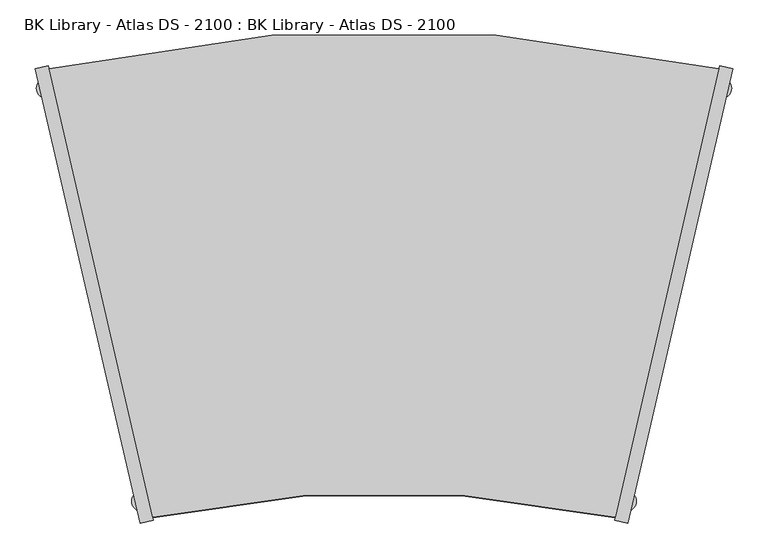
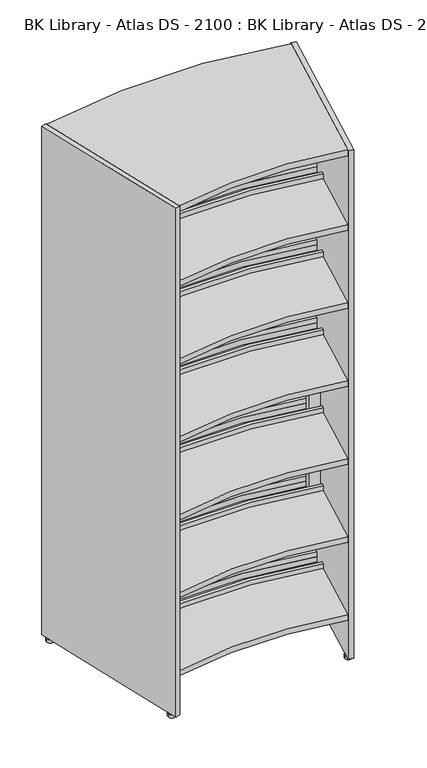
"""IFC4 building model written with IfcOpenShell, lengths in millimetres: furniture geometry, BK Library - Atlas DS - 2100 : BK Library - Atlas DS - 2100."""

from ifc_helpers import new_model, si_unit, point, frame, frame_2d, origin, origin_with_axes, place, context, project, spatial, polyline, circle_curve, trimmed, segment, composite_curve, outline, extrude, source, transform, mapped, element, save
from ifc_brep_helpers import plane_surface, cylinder_surface, revolved_surface, advanced_brep


def bk_library_atlas_ds_2100_bk_library_atlas_ds_2100_990d0805(model_context):
    return source(origin(), model_context, "Body", "SolidModel", [
        extrude(outline(composite_curve([segment(trimmed(circle_curve(frame_2d((0.0, -1840.4430404)), 1557.6392973), [point((327.6944521, -317.663829))], [point((-327.6944521, -317.663829))], True, "CARTESIAN"), True, "CONTINUOUS"), segment(polyline([(-327.6944521, -317.663829), (-394.2058088, -29.2269986)]), True, "CONTINUOUS"), segment(trimmed(circle_curve(frame_2d((0.0, -1785.1487517)), 1799.627579), [point((-394.2058088, -29.2269986))], [point((394.2058088, -29.2269986))], False, "CARTESIAN"), True, "CONTINUOUS"), segment(polyline([(394.2058088, -29.2269986), (327.6944521, -317.663829)]), True, "CONTINUOUS")], self_intersect=False)), frame((0.0, 0.0, 1771.6999998), z_axis=(0.0, 0.0, 1.0), x_axis=(1.0, 0.0, 0.0)), (0.0, 0.0, 1.0), 22.0),
        extrude(outline(composite_curve([segment(trimmed(circle_curve(frame_2d((0.0, -1777.8812307)), 2148.52767), [point((-474.1962162, 317.663829))], [point((474.1962162, 317.663829))], False, "CARTESIAN"), True, "CONTINUOUS"), segment(polyline([(474.1962162, 317.663829), (407.6853202, 29.2289965)]), True, "CONTINUOUS"), segment(trimmed(circle_curve(frame_2d((0.0, -1798.2835703)), 1872.4341116), [point((407.6853202, 29.2289965))], [point((-407.6853202, 29.2289965))], True, "CARTESIAN"), True, "CONTINUOUS"), segment(polyline([(-407.6853202, 29.2289965), (-474.1962162, 317.663829)]), True, "CONTINUOUS")], self_intersect=False)), frame((0.0, 0.0, 1771.6999998), z_axis=(0.0, 0.0, 1.0), x_axis=(1.0, 0.0, 0.0)), (0.0, 0.0, 1.0), 22.0),
        extrude(outline(composite_curve([segment(trimmed(circle_curve(frame_2d((0.0, -1785.1487517)), 1799.627579), [point((-394.2058088, -29.2269986))], [point((394.2058088, -29.2269986))], False, "CARTESIAN"), True, "CONTINUOUS"), segment(polyline([(394.2058088, -29.2269986), (391.2848087, -41.8943694)]), True, "CONTINUOUS"), segment(trimmed(circle_curve(frame_2d((0.0, -1790.5831955)), 1791.9309172), [point((391.2848087, -41.8943694))], [point((-391.2848087, -41.8943694))], True, "CARTESIAN"), True, "CONTINUOUS"), segment(polyline([(-391.2848087, -41.8943694), (-394.2058088, -29.2269986)]), True, "CONTINUOUS")], self_intersect=False)), frame((0.0, 0.0, 1793.6999998), z_axis=(0.0, 0.0, 1.0), x_axis=(1.0, 0.0, 0.0)), (0.0, 0.0, 1.0), 20.0),
        extrude(outline(composite_curve([segment(trimmed(circle_curve(frame_2d((0.0, -1776.6858327)), 1864.3585062), [point((-410.605951, 41.8947656))], [point((410.605951, 41.8947656))], False, "CARTESIAN"), True, "CONTINUOUS"), segment(polyline([(410.605951, 41.8947656), (407.6853202, 29.2289965)]), True, "CONTINUOUS"), segment(trimmed(circle_curve(frame_2d((0.0, -1798.2835703)), 1872.4341116), [point((407.6853202, 29.2289965))], [point((-407.6853202, 29.2289965))], True, "CARTESIAN"), True, "CONTINUOUS"), segment(polyline([(-407.6853202, 29.2289965), (-410.605951, 41.8947656)]), True, "CONTINUOUS")], self_intersect=False)), frame((0.0, 0.0, 1793.6999998), z_axis=(0.0, 0.0, 1.0), x_axis=(1.0, 0.0, 0.0)), (0.0, 0.0, 1.0), 20.0),
        extrude(outline(composite_curve([segment(trimmed(circle_curve(frame_2d((0.0, -1777.8812307)), 2148.52767), [point((-474.1962162, 317.663829))], [point((474.1962162, 317.663829))], False, "CARTESIAN"), True, "CONTINUOUS"), segment(polyline([(474.1962162, 317.663829), (327.6944521, -317.663829)]), True, "CONTINUOUS"), segment(trimmed(circle_curve(frame_2d((0.0, -1840.4430404)), 1557.6392973), [point((327.6944521, -317.663829))], [point((-327.6944521, -317.663829))], True, "CARTESIAN"), True, "CONTINUOUS"), segment(polyline([(-327.6944521, -317.663829), (-474.1962162, 317.663829)]), True, "CONTINUOUS")], self_intersect=False)), frame((0.0, 0.0, 2077.6999998), z_axis=(0.0, 0.0, 1.0), x_axis=(1.0, 0.0, 0.0)), (0.0, 0.0, 1.0), 24.0),
        advanced_brep(
        [(-403.1922937, 9.7442892, 1106.1999998), (-398.6983746, -9.7442892, 1106.1999998), (398.6983746, -9.7442892, 1106.1999998), (403.1922937, 9.7442892, 1106.1999998), (-403.1922937, 9.7442892, 391.1999998), (403.1922937, 9.7442892, 391.1999998), (398.6983746, -9.7442892, 391.1999998), (-398.6983746, -9.7442892, 391.1999998), (359.7000463, -1.6061954, 1066.1999998), (359.7000463, -1.6061954, 768.6999998), (-359.7212176, -1.6103769, 768.6999998), (-359.7212176, -1.6103769, 1066.1999998), (-359.7212176, -1.6103769, 728.6999998), (359.7000463, -1.6061954, 728.6999998), (359.7000463, -1.6061954, 431.1999998), (-359.7212176, -1.6103769, 431.1999998), (359.7000463, 18.8192746, 768.6999998), (359.7000463, 18.8192746, 1066.1999998), (-359.7212176, 18.8151191, 1066.1999998), (-359.7212176, 18.8151191, 768.6999998), (359.7000463, 18.8192746, 728.6999998), (-359.7212176, 18.8151191, 728.6999998), (-359.7212176, 18.8151191, 431.1999998), (359.7000463, 18.8192746, 431.1999998)],
        [
            (0, 1),
            (1, 2, circle_curve(frame((0.0, -1822.824997, 1106.1999998), z_axis=(0.0, 0.0, -1.0), x_axis=(1.0, 0.0, 0.0)), 1856.4002927)),
            (2, 3),
            (3, 0, circle_curve(frame((0.0, -1813.8149651, 1106.1999998), z_axis=(0.0, 0.0, 1.0), x_axis=(1.0, 0.0, 0.0)), 1867.6007014)),
            (4, 5, circle_curve(frame((0.0, -1813.8149651, 391.1999998), z_axis=(0.0, 0.0, -1.0), x_axis=(1.0, 0.0, 0.0)), 1867.6007014)),
            (5, 6),
            (6, 7, circle_curve(frame((0.0, -1822.824997, 391.1999998), z_axis=(0.0, 0.0, 1.0), x_axis=(1.0, 0.0, 0.0)), 1856.4002927)),
            (7, 4),
            (0, 4),
            (7, 1),
            (2, 6),
            (5, 3),
            (8, 9),
            (9, 10, circle_curve(frame((0.0, -1822.824997, 768.6999998), z_axis=(0.0, 0.0, 1.0), x_axis=(1.0, 0.0, 0.0)), 1856.4002927)),
            (10, 11),
            (11, 8, circle_curve(frame((0.0, -1822.824997, 1066.1999998), z_axis=(0.0, 0.0, -1.0), x_axis=(1.0, 0.0, 0.0)), 1856.4002927)),
            (12, 13, circle_curve(frame((0.0, -1822.824997, 728.6999998), z_axis=(0.0, 0.0, -1.0), x_axis=(1.0, 0.0, 0.0)), 1856.4002927)),
            (13, 14),
            (14, 15, circle_curve(frame((0.0, -1822.824997, 431.1999998), z_axis=(0.0, 0.0, 1.0), x_axis=(1.0, 0.0, 0.0)), 1856.4002927)),
            (15, 12),
            (16, 17),
            (17, 18, circle_curve(frame((0.0, -1813.8149651, 1066.1999998), z_axis=(0.0, 0.0, 1.0), x_axis=(1.0, 0.0, 0.0)), 1867.6007014)),
            (18, 19),
            (19, 16, circle_curve(frame((0.0, -1813.8149651, 768.6999998), z_axis=(0.0, 0.0, -1.0), x_axis=(1.0, 0.0, 0.0)), 1867.6007014)),
            (20, 21, circle_curve(frame((0.0, -1813.8149651, 728.6999998), z_axis=(0.0, 0.0, 1.0), x_axis=(1.0, 0.0, 0.0)), 1867.6007014)),
            (21, 22),
            (22, 23, circle_curve(frame((0.0, -1813.8149651, 431.1999998), z_axis=(0.0, 0.0, -1.0), x_axis=(1.0, 0.0, 0.0)), 1867.6007014)),
            (23, 20),
            (16, 9),
            (8, 17),
            (11, 18),
            (10, 19),
            (20, 13),
            (12, 21),
            (15, 22),
            (14, 23),
        ],
        [
            plane_surface(frame((-326.7956683, -321.5615447, 1106.1999998), z_axis=(0.0, 0.0, 1.0), x_axis=(0.224695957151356, -0.9744289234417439, 0.0))),
            plane_surface(frame((-326.7956683, -321.5615447, 391.1999998), z_axis=(0.0, 0.0, -1.0), x_axis=(-0.224695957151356, 0.9744289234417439, 0.0))),
            plane_surface(frame((-403.1922937, 9.7442892, 1106.1999998), z_axis=(-0.9744289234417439, -0.224695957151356, 0.0), x_axis=(0.0, 0.0, -1.0))),
            plane_surface(frame((398.6983746, -9.7442892, 1106.1999998), z_axis=(0.974428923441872, -0.22469595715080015, 0.0), x_axis=(0.0, 0.0, -1.0))),
            revolved_surface(polyline([(1856.4002927, -1822.824997, 391.1999998), (1856.4002927, -1822.824997, 1106.1999998)]), (0.0, -1822.824997, 391.1999998), (0.0, 0.0, -1.0)),
            cylinder_surface(frame((0.0, -1813.8149651, 391.1999998), z_axis=(0.0, 0.0, 1.0), x_axis=(1.0, 0.0, 0.0)), 1867.6007014),
            plane_surface(frame((359.7000463, -114.4923923, 768.6999998), z_axis=(-1.0, 0.0, 0.0), x_axis=(0.0, 1.0, 0.0))),
            plane_surface(frame((359.7000463, -114.4923923, 1066.1999998), z_axis=(0.0, 0.0, -1.0), x_axis=(0.0, 1.0, 0.0))),
            plane_surface(frame((-359.7212176, -114.4923923, 1066.1999998), z_axis=(1.0, 0.0, 0.0), x_axis=(0.0, 1.0, 0.0))),
            plane_surface(frame((-359.7212176, -114.4923923, 768.6999998), z_axis=(0.0, 0.0, 1.0), x_axis=(0.0, 1.0, 0.0))),
            plane_surface(frame((359.7000463, -114.4923923, 728.6999998), z_axis=(0.0, 0.0, -1.0), x_axis=(0.0, 1.0, 0.0))),
            plane_surface(frame((-359.7212176, -114.4923923, 728.6999998), z_axis=(1.0, 0.0, 0.0), x_axis=(0.0, 1.0, 0.0))),
            plane_surface(frame((-359.7212176, -114.4923923, 431.1999998), z_axis=(0.0, 0.0, 1.0), x_axis=(0.0, 1.0, 0.0))),
            plane_surface(frame((359.7000463, -114.4923923, 431.1999998), z_axis=(-1.0, 0.0, 0.0), x_axis=(0.0, 1.0, 0.0))),
        ],
        [
            (0, [[1, 2, 3, 4]]),
            (1, [[5, 6, 7, 8]]),
            (2, [[-1, 9, -8, 10]]),
            (3, [[-3, 11, -6, 12]]),
            (4, [[-2, -10, -7, -11], [13, 14, 15, 16], [17, 18, 19, 20]]),
            (5, [[-4, -12, -5, -9], [21, 22, 23, 24], [25, 26, 27, 28]]),
            (6, [[29, -13, 30, -21]]),
            (7, [[-30, -16, 31, -22]]),
            (8, [[-31, -15, 32, -23]]),
            (9, [[-29, -24, -32, -14]]),
            (10, [[33, -17, 34, -25]]),
            (11, [[-34, -20, 35, -26]]),
            (12, [[-35, -19, 36, -27]]),
            (13, [[-33, -28, -36, -18]]),
        ],
    ),
        extrude(outline(composite_curve([segment(trimmed(circle_curve(frame_2d((0.0, -1840.4430404)), 1557.6392973), [point((327.6944521, -317.663829))], [point((-327.6944521, -317.663829))], True, "CARTESIAN"), True, "CONTINUOUS"), segment(polyline([(-327.6944521, -317.663829), (-394.2058088, -29.2269986)]), True, "CONTINUOUS"), segment(trimmed(circle_curve(frame_2d((0.0, -1785.1487517)), 1799.627579), [point((-394.2058088, -29.2269986))], [point((394.2058088, -29.2269986))], False, "CARTESIAN"), True, "CONTINUOUS"), segment(polyline([(394.2058088, -29.2269986), (327.6944521, -317.663829)]), True, "CONTINUOUS")], self_intersect=False)), frame((0.0, 0.0, 171.6999998), z_axis=(0.0, 0.0, 1.0), x_axis=(1.0, 0.0, 0.0)), (0.0, 0.0, 1.0), 22.0),
        extrude(outline(composite_curve([segment(trimmed(circle_curve(frame_2d((0.0, -1777.8812307)), 2148.52767), [point((-474.1962162, 317.663829))], [point((474.1962162, 317.663829))], False, "CARTESIAN"), True, "CONTINUOUS"), segment(polyline([(474.1962162, 317.663829), (407.6853202, 29.2289965)]), True, "CONTINUOUS"), segment(trimmed(circle_curve(frame_2d((0.0, -1798.2835703)), 1872.4341116), [point((407.6853202, 29.2289965))], [point((-407.6853202, 29.2289965))], True, "CARTESIAN"), True, "CONTINUOUS"), segment(polyline([(-407.6853202, 29.2289965), (-474.1962162, 317.663829)]), True, "CONTINUOUS")], self_intersect=False)), frame((0.0, 0.0, 171.6999998), z_axis=(0.0, 0.0, 1.0), x_axis=(1.0, 0.0, 0.0)), (0.0, 0.0, 1.0), 22.0),
        extrude(outline(composite_curve([segment(trimmed(circle_curve(frame_2d((0.0, -1840.4430404)), 1557.6392973), [point((327.6944521, -317.663829))], [point((-327.6944521, -317.663829))], True, "CARTESIAN"), True, "CONTINUOUS"), segment(polyline([(-327.6944521, -317.663829), (-394.2058088, -29.2269986)]), True, "CONTINUOUS"), segment(trimmed(circle_curve(frame_2d((0.0, -1785.1487517)), 1799.627579), [point((-394.2058088, -29.2269986))], [point((394.2058088, -29.2269986))], False, "CARTESIAN"), True, "CONTINUOUS"), segment(polyline([(394.2058088, -29.2269986), (327.6944521, -317.663829)]), True, "CONTINUOUS")], self_intersect=False)), frame((0.0, 0.0, 491.6999998), z_axis=(0.0, 0.0, 1.0), x_axis=(1.0, 0.0, 0.0)), (0.0, 0.0, 1.0), 22.0),
        extrude(outline(composite_curve([segment(trimmed(circle_curve(frame_2d((0.0, -1777.8812307)), 2148.52767), [point((-474.1962162, 317.663829))], [point((474.1962162, 317.663829))], False, "CARTESIAN"), True, "CONTINUOUS"), segment(polyline([(474.1962162, 317.663829), (407.6853202, 29.2289965)]), True, "CONTINUOUS"), segment(trimmed(circle_curve(frame_2d((0.0, -1798.2835703)), 1872.4341116), [point((407.6853202, 29.2289965))], [point((-407.6853202, 29.2289965))], True, "CARTESIAN"), True, "CONTINUOUS"), segment(polyline([(-407.6853202, 29.2289965), (-474.1962162, 317.663829)]), True, "CONTINUOUS")], self_intersect=False)), frame((0.0, 0.0, 491.6999998), z_axis=(0.0, 0.0, 1.0), x_axis=(1.0, 0.0, 0.0)), (0.0, 0.0, 1.0), 22.0),
        extrude(outline(composite_curve([segment(trimmed(circle_curve(frame_2d((0.0, -1840.4430404)), 1557.6392973), [point((327.6944521, -317.663829))], [point((-327.6944521, -317.663829))], True, "CARTESIAN"), True, "CONTINUOUS"), segment(polyline([(-327.6944521, -317.663829), (-394.2058088, -29.2269986)]), True, "CONTINUOUS"), segment(trimmed(circle_curve(frame_2d((0.0, -1785.1487517)), 1799.627579), [point((-394.2058088, -29.2269986))], [point((394.2058088, -29.2269986))], False, "CARTESIAN"), True, "CONTINUOUS"), segment(polyline([(394.2058088, -29.2269986), (327.6944521, -317.663829)]), True, "CONTINUOUS")], self_intersect=False)), frame((0.0, 0.0, 811.6999998), z_axis=(0.0, 0.0, 1.0), x_axis=(1.0, 0.0, 0.0)), (0.0, 0.0, 1.0), 22.0),
        extrude(outline(composite_curve([segment(trimmed(circle_curve(frame_2d((0.0, -1777.8812307)), 2148.52767), [point((-474.1962162, 317.663829))], [point((474.1962162, 317.663829))], False, "CARTESIAN"), True, "CONTINUOUS"), segment(polyline([(474.1962162, 317.663829), (407.6853202, 29.2289965)]), True, "CONTINUOUS"), segment(trimmed(circle_curve(frame_2d((0.0, -1798.2835703)), 1872.4341116), [point((407.6853202, 29.2289965))], [point((-407.6853202, 29.2289965))], True, "CARTESIAN"), True, "CONTINUOUS"), segment(polyline([(-407.6853202, 29.2289965), (-474.1962162, 317.663829)]), True, "CONTINUOUS")], self_intersect=False)), frame((0.0, 0.0, 811.6999998), z_axis=(0.0, 0.0, 1.0), x_axis=(1.0, 0.0, 0.0)), (0.0, 0.0, 1.0), 22.0),
        extrude(outline(composite_curve([segment(trimmed(circle_curve(frame_2d((0.0, -1840.4430404)), 1557.6392973), [point((327.6944521, -317.663829))], [point((-327.6944521, -317.663829))], True, "CARTESIAN"), True, "CONTINUOUS"), segment(polyline([(-327.6944521, -317.663829), (-394.2058088, -29.2269986)]), True, "CONTINUOUS"), segment(trimmed(circle_curve(frame_2d((0.0, -1785.1487517)), 1799.627579), [point((-394.2058088, -29.2269986))], [point((394.2058088, -29.2269986))], False, "CARTESIAN"), True, "CONTINUOUS"), segment(polyline([(394.2058088, -29.2269986), (327.6944521, -317.663829)]), True, "CONTINUOUS")], self_intersect=False)), frame((0.0, 0.0, 1131.6999998), z_axis=(0.0, 0.0, 1.0), x_axis=(1.0, 0.0, 0.0)), (0.0, 0.0, 1.0), 22.0),
        extrude(outline(composite_curve([segment(trimmed(circle_curve(frame_2d((0.0, -1777.8812307)), 2148.52767), [point((-474.1962162, 317.663829))], [point((474.1962162, 317.663829))], False, "CARTESIAN"), True, "CONTINUOUS"), segment(polyline([(474.1962162, 317.663829), (407.6853202, 29.2289965)]), True, "CONTINUOUS"), segment(trimmed(circle_curve(frame_2d((0.0, -1798.2835703)), 1872.4341116), [point((407.6853202, 29.2289965))], [point((-407.6853202, 29.2289965))], True, "CARTESIAN"), True, "CONTINUOUS"), segment(polyline([(-407.6853202, 29.2289965), (-474.1962162, 317.663829)]), True, "CONTINUOUS")], self_intersect=False)), frame((0.0, 0.0, 1131.6999998), z_axis=(0.0, 0.0, 1.0), x_axis=(1.0, 0.0, 0.0)), (0.0, 0.0, 1.0), 22.0),
        extrude(outline(composite_curve([segment(trimmed(circle_curve(frame_2d((0.0, -1840.4430404)), 1557.6392973), [point((327.6944521, -317.663829))], [point((-327.6944521, -317.663829))], True, "CARTESIAN"), True, "CONTINUOUS"), segment(polyline([(-327.6944521, -317.663829), (-394.2058088, -29.2269986)]), True, "CONTINUOUS"), segment(trimmed(circle_curve(frame_2d((0.0, -1785.1487517)), 1799.627579), [point((-394.2058088, -29.2269986))], [point((394.2058088, -29.2269986))], False, "CARTESIAN"), True, "CONTINUOUS"), segment(polyline([(394.2058088, -29.2269986), (327.6944521, -317.663829)]), True, "CONTINUOUS")], self_intersect=False)), frame((0.0, 0.0, 1451.6999998), z_axis=(0.0, 0.0, 1.0), x_axis=(1.0, 0.0, 0.0)), (0.0, 0.0, 1.0), 22.0),
        extrude(outline(composite_curve([segment(trimmed(circle_curve(frame_2d((0.0, -1777.8812307)), 2148.52767), [point((-474.1962162, 317.663829))], [point((474.1962162, 317.663829))], False, "CARTESIAN"), True, "CONTINUOUS"), segment(polyline([(474.1962162, 317.663829), (407.6853202, 29.2289965)]), True, "CONTINUOUS"), segment(trimmed(circle_curve(frame_2d((0.0, -1798.2835703)), 1872.4341116), [point((407.6853202, 29.2289965))], [point((-407.6853202, 29.2289965))], True, "CARTESIAN"), True, "CONTINUOUS"), segment(polyline([(-407.6853202, 29.2289965), (-474.1962162, 317.663829)]), True, "CONTINUOUS")], self_intersect=False)), frame((0.0, 0.0, 1451.6999998), z_axis=(0.0, 0.0, 1.0), x_axis=(1.0, 0.0, 0.0)), (0.0, 0.0, 1.0), 22.0),
        extrude(outline(composite_curve([segment(trimmed(circle_curve(frame_2d((0.0, -1785.1487517)), 1799.627579), [point((-394.2058088, -29.2269986))], [point((394.2058088, -29.2269986))], False, "CARTESIAN"), True, "CONTINUOUS"), segment(polyline([(394.2058088, -29.2269986), (391.2848087, -41.8943694)]), True, "CONTINUOUS"), segment(trimmed(circle_curve(frame_2d((0.0, -1790.5831955)), 1791.9309172), [point((391.2848087, -41.8943694))], [point((-391.2848087, -41.8943694))], True, "CARTESIAN"), True, "CONTINUOUS"), segment(polyline([(-391.2848087, -41.8943694), (-394.2058088, -29.2269986)]), True, "CONTINUOUS")], self_intersect=False)), frame((0.0, 0.0, 193.6999998), z_axis=(0.0, 0.0, 1.0), x_axis=(1.0, 0.0, 0.0)), (0.0, 0.0, 1.0), 20.0),
        extrude(outline(composite_curve([segment(trimmed(circle_curve(frame_2d((0.0, -1776.6858327)), 1864.3585062), [point((-410.605951, 41.8947656))], [point((410.605951, 41.8947656))], False, "CARTESIAN"), True, "CONTINUOUS"), segment(polyline([(410.605951, 41.8947656), (407.6853202, 29.2289965)]), True, "CONTINUOUS"), segment(trimmed(circle_curve(frame_2d((0.0, -1798.2835703)), 1872.4341116), [point((407.6853202, 29.2289965))], [point((-407.6853202, 29.2289965))], True, "CARTESIAN"), True, "CONTINUOUS"), segment(polyline([(-407.6853202, 29.2289965), (-410.605951, 41.8947656)]), True, "CONTINUOUS")], self_intersect=False)), frame((0.0, 0.0, 193.6999998), z_axis=(0.0, 0.0, 1.0), x_axis=(1.0, 0.0, 0.0)), (0.0, 0.0, 1.0), 20.0),
        extrude(outline(composite_curve([segment(trimmed(circle_curve(frame_2d((0.0, -1785.1487517)), 1799.627579), [point((-394.2058088, -29.2269986))], [point((394.2058088, -29.2269986))], False, "CARTESIAN"), True, "CONTINUOUS"), segment(polyline([(394.2058088, -29.2269986), (391.2848087, -41.8943694)]), True, "CONTINUOUS"), segment(trimmed(circle_curve(frame_2d((0.0, -1790.5831955)), 1791.9309172), [point((391.2848087, -41.8943694))], [point((-391.2848087, -41.8943694))], True, "CARTESIAN"), True, "CONTINUOUS"), segment(polyline([(-391.2848087, -41.8943694), (-394.2058088, -29.2269986)]), True, "CONTINUOUS")], self_intersect=False)), frame((0.0, 0.0, 513.6999998), z_axis=(0.0, 0.0, 1.0), x_axis=(1.0, 0.0, 0.0)), (0.0, 0.0, 1.0), 20.0),
        extrude(outline(composite_curve([segment(trimmed(circle_curve(frame_2d((0.0, -1776.6858327)), 1864.3585062), [point((-410.605951, 41.8947656))], [point((410.605951, 41.8947656))], False, "CARTESIAN"), True, "CONTINUOUS"), segment(polyline([(410.605951, 41.8947656), (407.6853202, 29.2289965)]), True, "CONTINUOUS"), segment(trimmed(circle_curve(frame_2d((0.0, -1798.2835703)), 1872.4341116), [point((407.6853202, 29.2289965))], [point((-407.6853202, 29.2289965))], True, "CARTESIAN"), True, "CONTINUOUS"), segment(polyline([(-407.6853202, 29.2289965), (-410.605951, 41.8947656)]), True, "CONTINUOUS")], self_intersect=False)), frame((0.0, 0.0, 513.6999998), z_axis=(0.0, 0.0, 1.0), x_axis=(1.0, 0.0, 0.0)), (0.0, 0.0, 1.0), 20.0),
        extrude(outline(composite_curve([segment(trimmed(circle_curve(frame_2d((0.0, -1785.1487517)), 1799.627579), [point((-394.2058088, -29.2269986))], [point((394.2058088, -29.2269986))], False, "CARTESIAN"), True, "CONTINUOUS"), segment(polyline([(394.2058088, -29.2269986), (391.2848087, -41.8943694)]), True, "CONTINUOUS"), segment(trimmed(circle_curve(frame_2d((0.0, -1790.5831955)), 1791.9309172), [point((391.2848087, -41.8943694))], [point((-391.2848087, -41.8943694))], True, "CARTESIAN"), True, "CONTINUOUS"), segment(polyline([(-391.2848087, -41.8943694), (-394.2058088, -29.2269986)]), True, "CONTINUOUS")], self_intersect=False)), frame((0.0, 0.0, 833.6999998), z_axis=(0.0, 0.0, 1.0), x_axis=(1.0, 0.0, 0.0)), (0.0, 0.0, 1.0), 20.0),
        extrude(outline(composite_curve([segment(trimmed(circle_curve(frame_2d((0.0, -1776.6858327)), 1864.3585062), [point((-410.605951, 41.8947656))], [point((410.605951, 41.8947656))], False, "CARTESIAN"), True, "CONTINUOUS"), segment(polyline([(410.605951, 41.8947656), (407.6853202, 29.2289965)]), True, "CONTINUOUS"), segment(trimmed(circle_curve(frame_2d((0.0, -1798.2835703)), 1872.4341116), [point((407.6853202, 29.2289965))], [point((-407.6853202, 29.2289965))], True, "CARTESIAN"), True, "CONTINUOUS"), segment(polyline([(-407.6853202, 29.2289965), (-410.605951, 41.8947656)]), True, "CONTINUOUS")], self_intersect=False)), frame((0.0, 0.0, 833.6999998), z_axis=(0.0, 0.0, 1.0), x_axis=(1.0, 0.0, 0.0)), (0.0, 0.0, 1.0), 20.0),
        extrude(outline(composite_curve([segment(trimmed(circle_curve(frame_2d((0.0, -1785.1487517)), 1799.627579), [point((-394.2058088, -29.2269986))], [point((394.2058088, -29.2269986))], False, "CARTESIAN"), True, "CONTINUOUS"), segment(polyline([(394.2058088, -29.2269986), (391.2848087, -41.8943694)]), True, "CONTINUOUS"), segment(trimmed(circle_curve(frame_2d((0.0, -1790.5831955)), 1791.9309172), [point((391.2848087, -41.8943694))], [point((-391.2848087, -41.8943694))], True, "CARTESIAN"), True, "CONTINUOUS"), segment(polyline([(-391.2848087, -41.8943694), (-394.2058088, -29.2269986)]), True, "CONTINUOUS")], self_intersect=False)), frame((0.0, 0.0, 1153.6999998), z_axis=(0.0, 0.0, 1.0), x_axis=(1.0, 0.0, 0.0)), (0.0, 0.0, 1.0), 20.0),
        extrude(outline(composite_curve([segment(trimmed(circle_curve(frame_2d((0.0, -1776.6858327)), 1864.3585062), [point((-410.605951, 41.8947656))], [point((410.605951, 41.8947656))], False, "CARTESIAN"), True, "CONTINUOUS"), segment(polyline([(410.605951, 41.8947656), (407.6853202, 29.2289965)]), True, "CONTINUOUS"), segment(trimmed(circle_curve(frame_2d((0.0, -1798.2835703)), 1872.4341116), [point((407.6853202, 29.2289965))], [point((-407.6853202, 29.2289965))], True, "CARTESIAN"), True, "CONTINUOUS"), segment(polyline([(-407.6853202, 29.2289965), (-410.605951, 41.8947656)]), True, "CONTINUOUS")], self_intersect=False)), frame((0.0, 0.0, 1153.6999998), z_axis=(0.0, 0.0, 1.0), x_axis=(1.0, 0.0, 0.0)), (0.0, 0.0, 1.0), 20.0),
        extrude(outline(composite_curve([segment(trimmed(circle_curve(frame_2d((0.0, -1785.1487517)), 1799.627579), [point((-394.2058088, -29.2269986))], [point((394.2058088, -29.2269986))], False, "CARTESIAN"), True, "CONTINUOUS"), segment(polyline([(394.2058088, -29.2269986), (391.2848087, -41.8943694)]), True, "CONTINUOUS"), segment(trimmed(circle_curve(frame_2d((0.0, -1790.5831955)), 1791.9309172), [point((391.2848087, -41.8943694))], [point((-391.2848087, -41.8943694))], True, "CARTESIAN"), True, "CONTINUOUS"), segment(polyline([(-391.2848087, -41.8943694), (-394.2058088, -29.2269986)]), True, "CONTINUOUS")], self_intersect=False)), frame((0.0, 0.0, 1473.6999998), z_axis=(0.0, 0.0, 1.0), x_axis=(1.0, 0.0, 0.0)), (0.0, 0.0, 1.0), 20.0),
        extrude(outline(composite_curve([segment(trimmed(circle_curve(frame_2d((0.0, -1776.6858327)), 1864.3585062), [point((-410.605951, 41.8947656))], [point((410.605951, 41.8947656))], False, "CARTESIAN"), True, "CONTINUOUS"), segment(polyline([(410.605951, 41.8947656), (407.6853202, 29.2289965)]), True, "CONTINUOUS"), segment(trimmed(circle_curve(frame_2d((0.0, -1798.2835703)), 1872.4341116), [point((407.6853202, 29.2289965))], [point((-407.6853202, 29.2289965))], True, "CARTESIAN"), True, "CONTINUOUS"), segment(polyline([(-407.6853202, 29.2289965), (-410.605951, 41.8947656)]), True, "CONTINUOUS")], self_intersect=False)), frame((0.0, 0.0, 1473.6999998), z_axis=(0.0, 0.0, 1.0), x_axis=(1.0, 0.0, 0.0)), (0.0, 0.0, 1.0), 20.0),
        extrude(outline(polyline([(-345.3098178, -325.8307679), (-493.6091495, 317.2923215), (-475.095, 321.5615447), (-326.7956683, -321.5615447), (-345.3098178, -325.8307679)])), frame((0.0, 0.0, 13.6999998), z_axis=(0.0, 0.0, 1.0), x_axis=(1.0, 0.0, 0.0)), (0.0, 0.0, 1.0), 2088.0),
        extrude(outline(polyline([(475.095, 321.5615447), (493.6091495, 317.2923215), (345.3098178, -325.8307679), (326.7956683, -321.5615447), (475.095, 321.5615447)])), frame((0.0, 0.0, 13.6999998), z_axis=(0.0, 0.0, 1.0), x_axis=(1.0, 0.0, 0.0)), (0.0, 0.0, 1.0), 2088.0),
        extrude(outline(composite_curve([segment(trimmed(circle_curve(frame_2d((477.608406, 290.1883722)), 14.4994573), [point((492.1078633, 290.1883722))], [point((463.1089486, 290.1883722))], False, "CARTESIAN"), True, "CONTINUOUS"), segment(trimmed(circle_curve(frame_2d((477.608406, 290.1883722)), 14.4994573), [point((463.1089486, 290.1883722))], [point((492.1078633, 290.1883722))], False, "CARTESIAN"), True, "CONTINUOUS")], self_intersect=False)), origin_with_axes(), (0.0, 0.0, 1.0), 13.6999998),
        extrude(outline(composite_curve([segment(trimmed(circle_curve(frame_2d((-477.608406, 290.1883722)), 14.4994573), [point((-492.1078633, 290.1883722))], [point((-463.1089486, 290.1883722))], False, "CARTESIAN"), True, "CONTINUOUS"), segment(trimmed(circle_curve(frame_2d((-477.608406, 290.1883722)), 14.4994573), [point((-463.1089486, 290.1883722))], [point((-492.1078633, 290.1883722))], False, "CARTESIAN"), True, "CONTINUOUS")], self_intersect=False)), origin_with_axes(), (0.0, 0.0, 1.0), 13.6999998),
        extrude(outline(composite_curve([segment(trimmed(circle_curve(frame_2d((342.7923392, -294.4590973)), 14.4994573), [point((357.2917965, -294.4590973))], [point((328.2928818, -294.4590973))], False, "CARTESIAN"), True, "CONTINUOUS"), segment(trimmed(circle_curve(frame_2d((342.7923392, -294.4590973)), 14.4994573), [point((328.2928818, -294.4590973))], [point((357.2917965, -294.4590973))], False, "CARTESIAN"), True, "CONTINUOUS")], self_intersect=False)), origin_with_axes(), (0.0, 0.0, 1.0), 13.6999998),
        extrude(outline(composite_curve([segment(trimmed(circle_curve(frame_2d((-342.7923392, -294.4590973)), 14.4994573), [point((-357.2917965, -294.4590973))], [point((-328.2928818, -294.4590973))], False, "CARTESIAN"), True, "CONTINUOUS"), segment(trimmed(circle_curve(frame_2d((-342.7923392, -294.4590973)), 14.4994573), [point((-328.2928818, -294.4590973))], [point((-357.2917965, -294.4590973))], False, "CARTESIAN"), True, "CONTINUOUS")], self_intersect=False)), origin_with_axes(), (0.0, 0.0, 1.0), 13.6999998),
    ])


if __name__ == "__main__":
    model = new_model("IFC4")
    model_context = context("Model", 3, world=origin())
    ifc_project = project(units=[si_unit("LENGTHUNIT", "METRE", prefix="MILLI")], contexts=[model_context])
    site = spatial("IfcSite", under=ifc_project)
    building = spatial("IfcBuilding", under=site)
    placement = place(None, origin())
    bk_library_atlas_ds_2100_bk_library_atlas_ds_2100_shape = bk_library_atlas_ds_2100_bk_library_atlas_ds_2100_990d0805(model_context)
    element("IfcFurniture", 1, ObjectType="BK Library - Atlas DS - 2100 : BK Library - Atlas DS - 2100", at=placement, inside=building, context=model_context, shape_type="MappedRepresentation", body=[
        mapped(bk_library_atlas_ds_2100_bk_library_atlas_ds_2100_shape, transform((0.0, 0.0, 0.0), x_axis=(1.0, 0.0, 0.0), y_axis=(0.0, 1.0, 0.0), z_axis=(0.0, 0.0, 1.0))),
    ])
    save(model, "model.ifc")
